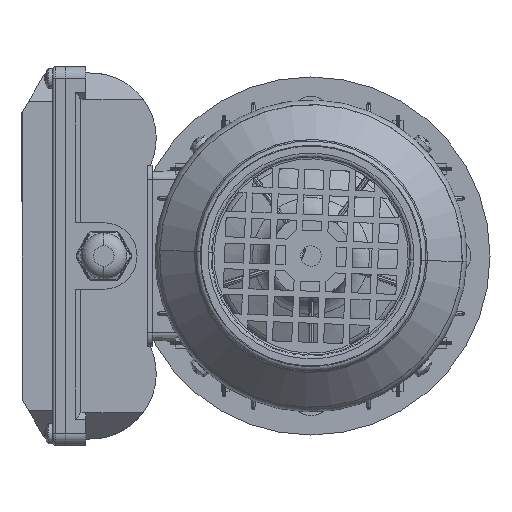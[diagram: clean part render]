
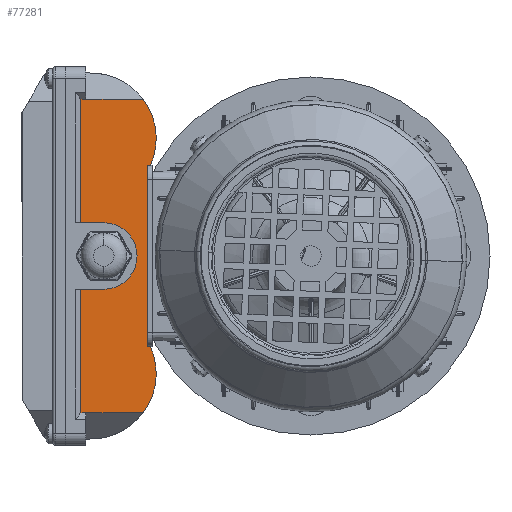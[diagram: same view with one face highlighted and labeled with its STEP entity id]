
A CAD part, left-side view. The second image highlights one B-rep face of the part: STEP entity #77281.
In plain terms, the highlighted planar face has unit normal (-1, 0, 0) as drawn and (0, 0, -1) by its records, which use the part's own axes.
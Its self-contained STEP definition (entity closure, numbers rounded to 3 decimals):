
#293 = VERTEX_POINT ( 'NONE', #75296 ) ;
#1496 = LINE ( 'NONE', #51851, #94315 ) ;
#2140 = LINE ( 'NONE', #33962, #51411 ) ;
#2619 = EDGE_CURVE ( 'NONE', #13848, #33341, #66019, .T. ) ;
#5350 = EDGE_CURVE ( 'NONE', #33341, #48430, #103507, .T. ) ;
#5839 = VECTOR ( 'NONE', #95331, 1000. ) ;
#6258 = DIRECTION ( 'NONE',  ( 0., 1., 0. ) ) ;
#8585 = VERTEX_POINT ( 'NONE', #74946 ) ;
#13325 = VERTEX_POINT ( 'NONE', #46462 ) ;
#13754 = DIRECTION ( 'NONE',  ( 1., 0., 0. ) ) ;
#13848 = VERTEX_POINT ( 'NONE', #25588 ) ;
#14314 = EDGE_CURVE ( 'NONE', #13325, #26793, #73755, .T. ) ;
#15196 = DIRECTION ( 'NONE',  ( 1., 0., 0. ) ) ;
#15574 = LINE ( 'NONE', #116039, #78775 ) ;
#16663 = EDGE_CURVE ( 'NONE', #48863, #86814, #43709, .T. ) ;
#16681 = EDGE_CURVE ( 'NONE', #54370, #67537, #57805, .T. ) ;
#16696 = DIRECTION ( 'NONE',  ( 0., -1., 0. ) ) ;
#16890 = CARTESIAN_POINT ( 'NONE',  ( 26.147, 12.818, 2.5 ) ) ;
#18380 = CARTESIAN_POINT ( 'NONE',  ( 13.147, -13.122, 2.5 ) ) ;
#18385 = AXIS2_PLACEMENT_3D ( 'NONE', #86084, #41598, #85315 ) ;
#18757 = VERTEX_POINT ( 'NONE', #48417 ) ;
#18874 = DIRECTION ( 'NONE',  ( 0., 1., 0. ) ) ;
#19166 = DIRECTION ( 'NONE',  ( -1., 0., 0. ) ) ;
#25588 = CARTESIAN_POINT ( 'NONE',  ( -48.182, 10.878, 2.5 ) ) ;
#26744 = CARTESIAN_POINT ( 'NONE',  ( 74.475, 10.878, 2.5 ) ) ;
#26793 = VERTEX_POINT ( 'NONE', #94021 ) ;
#27775 = VECTOR ( 'NONE', #18874, 1000. ) ;
#28794 = CARTESIAN_POINT ( 'NONE',  ( -22.353, -14.36, 2.5 ) ) ;
#29405 = EDGE_CURVE ( 'NONE', #8585, #13848, #82575, .T. ) ;
#33341 = VERTEX_POINT ( 'NONE', #57234 ) ;
#33936 = VECTOR ( 'NONE', #87100, 1000. ) ;
#33962 = CARTESIAN_POINT ( 'NONE',  ( 26.147, 12.818, 2.5 ) ) ;
#37712 = ORIENTED_EDGE ( 'NONE', *, *, #16663, .T. ) ;
#37832 = LINE ( 'NONE', #41572, #101088 ) ;
#39093 = DIRECTION ( 'NONE',  ( 1., 0., 0. ) ) ;
#40012 = VECTOR ( 'NONE', #19166, 1000. ) ;
#41572 = CARTESIAN_POINT ( 'NONE',  ( 48.647, -13.122, 2.5 ) ) ;
#41598 = DIRECTION ( 'NONE',  ( 0., 0., 1. ) ) ;
#43709 = LINE ( 'NONE', #77243, #33936 ) ;
#46462 = CARTESIAN_POINT ( 'NONE',  ( 48.647, -13.122, 2.5 ) ) ;
#48096 = DIRECTION ( 'NONE',  ( 0., 0., 1. ) ) ;
#48417 = CARTESIAN_POINT ( 'NONE',  ( 0.147, 3.878, 2.5 ) ) ;
#48430 = VERTEX_POINT ( 'NONE', #28794 ) ;
#48494 = ORIENTED_EDGE ( 'NONE', *, *, #96084, .F. ) ;
#48863 = VERTEX_POINT ( 'NONE', #16890 ) ;
#49178 = CARTESIAN_POINT ( 'NONE',  ( 26.147, 3.878, 2.5 ) ) ;
#50495 = ORIENTED_EDGE ( 'NONE', *, *, #2619, .F. ) ;
#51052 = CARTESIAN_POINT ( 'NONE',  ( 13.147, 3.878, 2.5 ) ) ;
#51411 = VECTOR ( 'NONE', #95660, 1000. ) ;
#51851 = CARTESIAN_POINT ( 'NONE',  ( -60.853, 12.818, 2.5 ) ) ;
#52845 = EDGE_CURVE ( 'NONE', #75804, #18757, #79236, .T. ) ;
#53031 = ORIENTED_EDGE ( 'NONE', *, *, #73729, .T. ) ;
#53065 = CARTESIAN_POINT ( 'NONE',  ( 48.647, -14.36, 2.5 ) ) ;
#54370 = VERTEX_POINT ( 'NONE', #66849 ) ;
#54415 = EDGE_CURVE ( 'NONE', #8585, #293, #1496, .T. ) ;
#54651 = CARTESIAN_POINT ( 'NONE',  ( -22.353, -13.122, 2.5 ) ) ;
#56381 = CARTESIAN_POINT ( 'NONE',  ( -48.182, 16.878, 2.5 ) ) ;
#57234 = CARTESIAN_POINT ( 'NONE',  ( -48.182, -11.501, 2.5 ) ) ;
#57244 = VECTOR ( 'NONE', #65427, 1000. ) ;
#57559 = ORIENTED_EDGE ( 'NONE', *, *, #14314, .T. ) ;
#57805 = LINE ( 'NONE', #86335, #5839 ) ;
#58567 = DIRECTION ( 'NONE',  ( 0., 0., -1. ) ) ;
#58669 = CIRCLE ( 'NONE', #18385, 25.5 ) ;
#60909 = ORIENTED_EDGE ( 'NONE', *, *, #83872, .T. ) ;
#61534 = DIRECTION ( 'NONE',  ( 0., 0., 1. ) ) ;
#63629 = DIRECTION ( 'NONE',  ( 0., 1., 0. ) ) ;
#64976 = VECTOR ( 'NONE', #115311, 1000. ) ;
#65427 = DIRECTION ( 'NONE',  ( 0., -1., 0. ) ) ;
#65911 = ORIENTED_EDGE ( 'NONE', *, *, #52845, .F. ) ;
#66019 = LINE ( 'NONE', #97322, #112470 ) ;
#66849 = CARTESIAN_POINT ( 'NONE',  ( 74.475, -11.501, 2.5 ) ) ;
#67537 = VERTEX_POINT ( 'NONE', #26744 ) ;
#69722 = ORIENTED_EDGE ( 'NONE', *, *, #29405, .F. ) ;
#71920 = EDGE_CURVE ( 'NONE', #67537, #86814, #101526, .T. ) ;
#73729 = EDGE_CURVE ( 'NONE', #76167, #13325, #37832, .T. ) ;
#73741 = FACE_OUTER_BOUND ( 'NONE', #94687, .T. ) ;
#73755 = LINE ( 'NONE', #18380, #40012 ) ;
#74882 = EDGE_CURVE ( 'NONE', #76167, #54370, #58669, .T. ) ;
#74946 = CARTESIAN_POINT ( 'NONE',  ( -48.182, 12.818, 2.5 ) ) ;
#75296 = CARTESIAN_POINT ( 'NONE',  ( 0.147, 12.818, 2.5 ) ) ;
#75804 = VERTEX_POINT ( 'NONE', #49178 ) ;
#76167 = VERTEX_POINT ( 'NONE', #53065 ) ;
#77243 = CARTESIAN_POINT ( 'NONE',  ( -60.853, 12.818, 2.5 ) ) ;
#77281 = ADVANCED_FACE ( 'NONE', ( #73741 ), #115505, .F. ) ;
#77790 = AXIS2_PLACEMENT_3D ( 'NONE', #51052, #58567, #13754 ) ;
#78058 = ORIENTED_EDGE ( 'NONE', *, *, #74882, .F. ) ;
#78457 = LINE ( 'NONE', #54651, #27775 ) ;
#78775 = VECTOR ( 'NONE', #63629, 1000. ) ;
#79236 = CIRCLE ( 'NONE', #77790, 13. ) ;
#80608 = EDGE_CURVE ( 'NONE', #18757, #293, #15574, .T. ) ;
#80818 = ORIENTED_EDGE ( 'NONE', *, *, #80608, .F. ) ;
#82575 = LINE ( 'NONE', #56381, #57244 ) ;
#83872 = EDGE_CURVE ( 'NONE', #75804, #48863, #2140, .T. ) ;
#83918 = CARTESIAN_POINT ( 'NONE',  ( 74.475, 12.818, 2.5 ) ) ;
#83933 = CARTESIAN_POINT ( 'NONE',  ( -32.853, 8.878, 2.5 ) ) ;
#84482 = ORIENTED_EDGE ( 'NONE', *, *, #71920, .F. ) ;
#85315 = DIRECTION ( 'NONE',  ( 1., 0., 0. ) ) ;
#86084 = CARTESIAN_POINT ( 'NONE',  ( 59.147, 8.878, 2.5 ) ) ;
#86335 = CARTESIAN_POINT ( 'NONE',  ( 74.475, 16.878, 2.5 ) ) ;
#86814 = VERTEX_POINT ( 'NONE', #83918 ) ;
#86920 = ORIENTED_EDGE ( 'NONE', *, *, #16681, .F. ) ;
#87100 = DIRECTION ( 'NONE',  ( 1., 0., 0. ) ) ;
#87758 = CARTESIAN_POINT ( 'NONE',  ( 74.475, 10.878, 2.5 ) ) ;
#94021 = CARTESIAN_POINT ( 'NONE',  ( -22.353, -13.122, 2.5 ) ) ;
#94315 = VECTOR ( 'NONE', #96320, 1000. ) ;
#94687 = EDGE_LOOP ( 'NONE', ( #65911, #60909, #37712, #84482, #86920, #78058, #53031, #57559, #48494, #95919, #50495, #69722, #112589, #80818 ) ) ;
#95331 = DIRECTION ( 'NONE',  ( 0., 1., 0. ) ) ;
#95660 = DIRECTION ( 'NONE',  ( 0., 1., 0. ) ) ;
#95919 = ORIENTED_EDGE ( 'NONE', *, *, #5350, .F. ) ;
#96084 = EDGE_CURVE ( 'NONE', #48430, #26793, #78457, .T. ) ;
#96320 = DIRECTION ( 'NONE',  ( 1., 0., 0. ) ) ;
#96961 = CARTESIAN_POINT ( 'NONE',  ( -60.853, 12.818, 2.5 ) ) ;
#97322 = CARTESIAN_POINT ( 'NONE',  ( -48.182, 16.878, 2.5 ) ) ;
#101088 = VECTOR ( 'NONE', #6258, 1000. ) ;
#101526 = LINE ( 'NONE', #87758, #64976 ) ;
#103507 = CIRCLE ( 'NONE', #114138, 25.5 ) ;
#111300 = AXIS2_PLACEMENT_3D ( 'NONE', #96961, #61534, #15196 ) ;
#112470 = VECTOR ( 'NONE', #16696, 1000. ) ;
#112589 = ORIENTED_EDGE ( 'NONE', *, *, #54415, .T. ) ;
#114138 = AXIS2_PLACEMENT_3D ( 'NONE', #83933, #48096, #39093 ) ;
#115311 = DIRECTION ( 'NONE',  ( 0., 1., 0. ) ) ;
#115505 = PLANE ( 'NONE',  #111300 ) ;
#116039 = CARTESIAN_POINT ( 'NONE',  ( 0.147, 16.878, 2.5 ) ) ;
